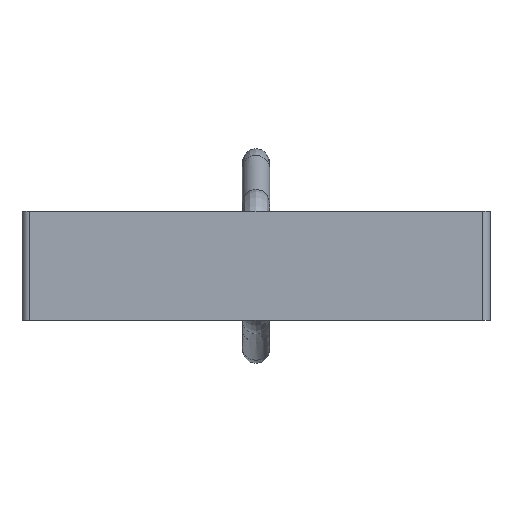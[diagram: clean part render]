
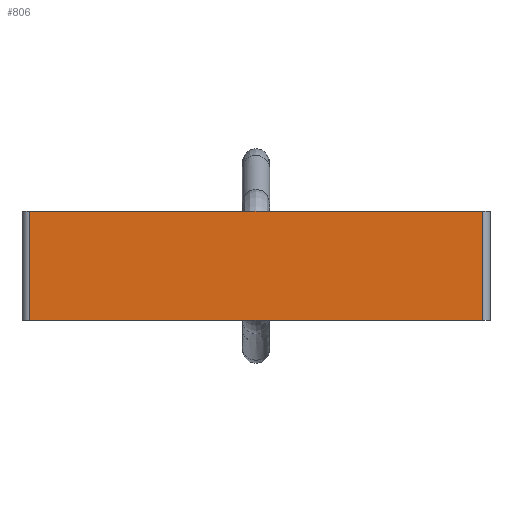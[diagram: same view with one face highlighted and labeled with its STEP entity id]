
A CAD part, front view. The second image highlights one B-rep face of the part: STEP entity #806.
In plain terms, the highlighted planar face has unit normal (0, -1, 0).
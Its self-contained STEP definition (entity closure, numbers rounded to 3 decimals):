
#122 = ORIENTED_EDGE ( 'NONE', *, *, #398, .T. ) ;
#153 = LINE ( 'NONE', #1717, #408 ) ;
#165 = ORIENTED_EDGE ( 'NONE', *, *, #577, .T. ) ;
#303 = VERTEX_POINT ( 'NONE', #1059 ) ;
#398 = EDGE_CURVE ( 'NONE', #1232, #303, #902, .T. ) ;
#408 = VECTOR ( 'NONE', #1537, 1000. ) ;
#528 = EDGE_CURVE ( 'NONE', #1549, #1163, #153, .T. ) ;
#550 = DIRECTION ( 'NONE',  ( 1., 0., 0. ) ) ;
#577 = EDGE_CURVE ( 'NONE', #1549, #1232, #869, .T. ) ;
#612 = EDGE_LOOP ( 'NONE', ( #122, #839, #1208, #165 ) ) ;
#640 = EDGE_CURVE ( 'NONE', #303, #1163, #1310, .T. ) ;
#644 = DIRECTION ( 'NONE',  ( 0., 0., -1. ) ) ;
#679 = FACE_OUTER_BOUND ( 'NONE', #612, .T. ) ;
#720 = VECTOR ( 'NONE', #644, 1000. ) ;
#726 = CARTESIAN_POINT ( 'NONE',  ( -30., -3., -7. ) ) ;
#756 = DIRECTION ( 'NONE',  ( 0., 0., 1. ) ) ;
#806 = ADVANCED_FACE ( 'NONE', ( #679 ), #1287, .F. ) ;
#823 = CARTESIAN_POINT ( 'NONE',  ( -29., -3., 7. ) ) ;
#826 = CARTESIAN_POINT ( 'NONE',  ( -29., -3., 7. ) ) ;
#839 = ORIENTED_EDGE ( 'NONE', *, *, #640, .T. ) ;
#869 = LINE ( 'NONE', #826, #720 ) ;
#902 = LINE ( 'NONE', #726, #1191 ) ;
#937 = DIRECTION ( 'NONE',  ( 0., 1., 0. ) ) ;
#960 = DIRECTION ( 'NONE',  ( 0., 0., 1. ) ) ;
#1059 = CARTESIAN_POINT ( 'NONE',  ( 29., -3., -7. ) ) ;
#1113 = CARTESIAN_POINT ( 'NONE',  ( -30., -3., 7. ) ) ;
#1121 = VECTOR ( 'NONE', #960, 1000. ) ;
#1135 = CARTESIAN_POINT ( 'NONE',  ( 29., -3., 7. ) ) ;
#1163 = VERTEX_POINT ( 'NONE', #1594 ) ;
#1191 = VECTOR ( 'NONE', #550, 1000. ) ;
#1208 = ORIENTED_EDGE ( 'NONE', *, *, #528, .F. ) ;
#1232 = VERTEX_POINT ( 'NONE', #1651 ) ;
#1287 = PLANE ( 'NONE',  #1298 ) ;
#1298 = AXIS2_PLACEMENT_3D ( 'NONE', #1113, #937, #756 ) ;
#1310 = LINE ( 'NONE', #1135, #1121 ) ;
#1537 = DIRECTION ( 'NONE',  ( 1., 0., 0. ) ) ;
#1549 = VERTEX_POINT ( 'NONE', #823 ) ;
#1594 = CARTESIAN_POINT ( 'NONE',  ( 29., -3., 7. ) ) ;
#1651 = CARTESIAN_POINT ( 'NONE',  ( -29., -3., -7. ) ) ;
#1717 = CARTESIAN_POINT ( 'NONE',  ( -30., -3., 7. ) ) ;
